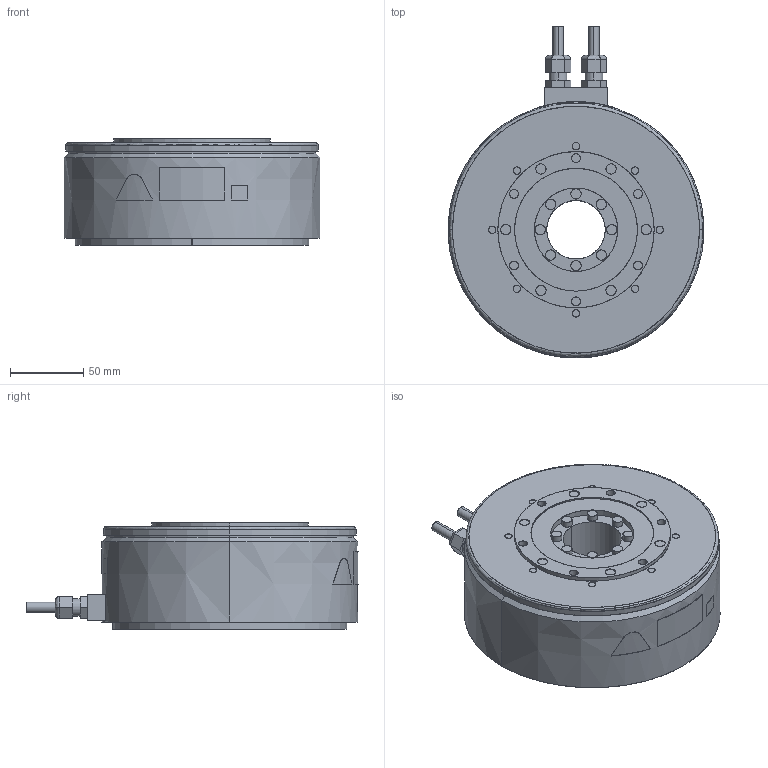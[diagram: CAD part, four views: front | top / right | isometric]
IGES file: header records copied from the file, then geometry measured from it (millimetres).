
Start section: SolidWorks IGES file using analytic representation for surfaces
Global section: file name: D:\YASKAWA\sgm7f_08c_a4_.IGS; native system: SolidWorks 2006 by SolidWorks Corporation; preprocessor: SolidWorks 2006 by SolidWorks Corporation; author: yamanouchi; date: 160724.152652; units: millimetre
Bounding box: 175 x 227.2 x 73 mm (x, y, z)
Surface area: 129001.3 mm2 (no closed solid volume)
Topology: 0 solids, 0 shells, 247 faces, 5412 edges, 5412 vertices
Faces by surface type: revolution 139, bspline 108
